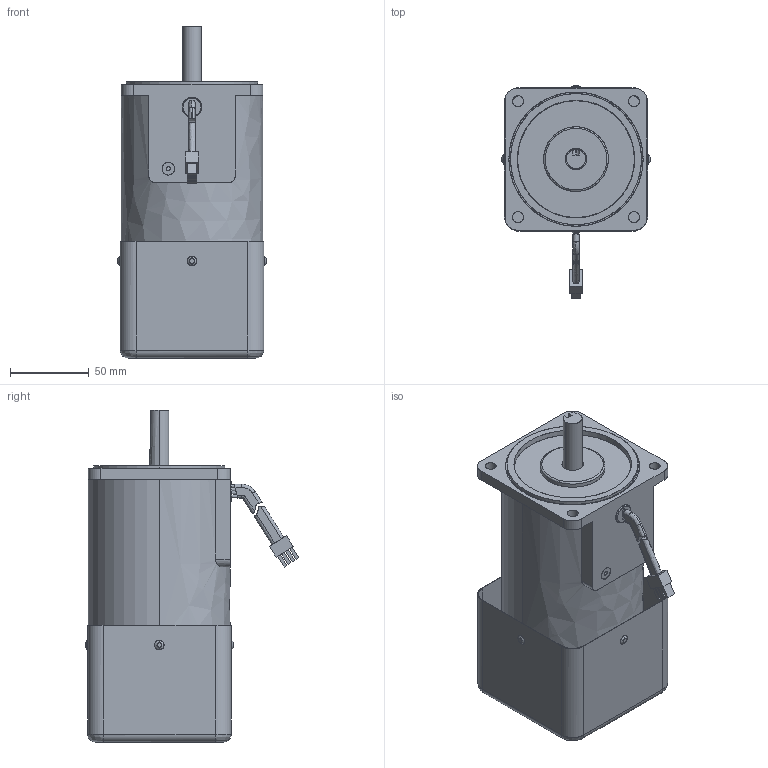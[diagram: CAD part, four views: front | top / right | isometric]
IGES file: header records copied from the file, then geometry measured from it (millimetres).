
Start section: SolidWorks IGES file using analytic representation for surfaces
Global section: file name: \\楷备家烹钦辑滚\data (D)\档搁 枚\权其捞瘤 档搁\7. SPEED INDUCTION\90\120W\(7-102) 9SDK∴-120F2WH.IGS; native system: SolidWorks 2007; preprocessor: SolidWorks 2007; author: user; date: 150707.175613; units: millimetre
Bounding box: 94 x 135.4 x 210.5 mm (x, y, z)
Surface area: 175546.9 mm2 (no closed solid volume)
Topology: 0 solids, 0 shells, 400 faces, 7195 edges, 7195 vertices
Faces by surface type: revolution 240, bspline 160
